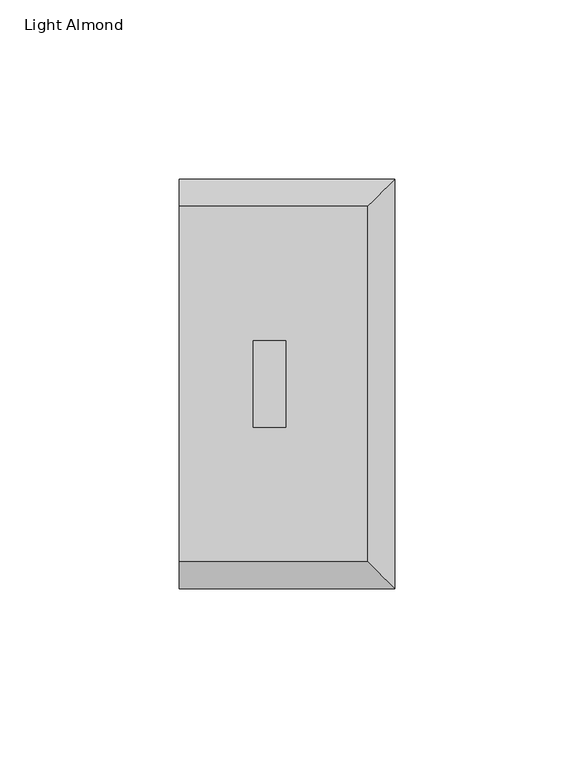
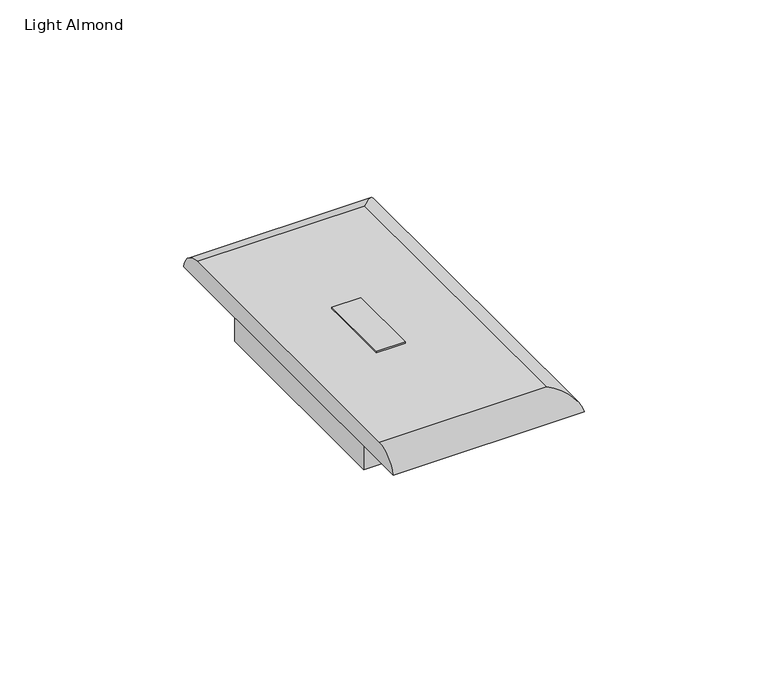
"""IFC4 building model written with IfcOpenShell, lengths in millimetres: proxy geometry, Switch-Wall-Pass_And_Seymour-Toggle : Light Almond."""

from ifc_helpers import new_model, si_unit, frame, origin, origin_with_axes, place, context, project, spatial, polyline, circle_curve, ellipse_curve, outline, extrude, source, transform, mapped, element, save
from ifc_brep_helpers import plane_surface, cylinder_surface, advanced_brep


def light_almond_fe51396b(model_context):
    return source(origin(), model_context, "Body", "SolidModel", [
        extrude(outline(polyline([(4.572, 12.065), (4.572, -12.065), (-4.572, -12.065), (-4.572, 12.065), (4.572, 12.065)])), origin_with_axes(), (0.0, 0.0, 1.0), 6.604),
        advanced_brep(
        [(-25.2222, 49.53, 6.35), (-25.2222, -49.53, 6.35), (27.305, -49.53, 6.35), (27.305, 49.53, 6.35), (4.572, 12.065, 6.35), (4.572, -12.065, 6.35), (-4.572, -12.065, 6.35), (-4.572, 12.065, 6.35), (-25.2222, -57.15, 0.0), (-25.2222, 57.15, 0.0), (34.925, 57.15, 0.0), (34.925, -57.15, 0.0), (4.572, -12.065, 0.254), (4.572, 12.065, 0.254), (-4.572, 12.065, 0.254), (-4.572, -12.065, 0.254)],
        [
            (0, 1),
            (1, 2),
            (2, 3),
            (3, 0),
            (4, 5),
            (5, 6),
            (6, 7),
            (7, 4),
            (8, 9),
            (9, 10),
            (10, 11),
            (11, 8),
            (12, 13),
            (13, 14),
            (14, 15),
            (15, 12),
            (12, 5),
            (4, 13),
            (7, 14),
            (6, 15),
            (11, 2, ellipse_curve(frame((27.305, -49.53, -1.397), z_axis=(-0.7071067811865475, -0.7071067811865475, 0.0), x_axis=(-0.7071067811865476, 0.7071067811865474, 0.0)), 10.9559125, 7.747)),
            (1, 8, circle_curve(frame((-25.2222, -49.53, -1.397), z_axis=(1.0, 0.0, 0.0), x_axis=(0.0, -1.0, 0.0)), 7.747)),
            (3, 10, ellipse_curve(frame((27.305, 49.53, -1.397), z_axis=(-0.7071067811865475, 0.7071067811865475, 0.0), x_axis=(0.7071067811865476, 0.7071067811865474, 0.0)), 10.9559125, 7.747)),
            (9, 0, circle_curve(frame((-25.2222, 49.53, -1.397), z_axis=(1.0, 0.0, 0.0), x_axis=(0.0, 1.0, 0.0)), 7.747)),
        ],
        [
            plane_surface(frame((-34.925, 57.15, 6.35), z_axis=(0.0, 0.0, 1.0), x_axis=(-1.0, 0.0, 0.0))),
            plane_surface(frame((-34.925, 57.15, 0.0), z_axis=(0.0, 0.0, -1.0), x_axis=(1.0, 0.0, 0.0))),
            plane_surface(frame((4.572, -12.065, 0.254), z_axis=(0.0, 0.0, 1.0), x_axis=(-1.0, 0.0, 0.0))),
            plane_surface(frame((4.572, 12.065, 0.254), z_axis=(-1.0, 0.0, 0.0), x_axis=(0.0, 0.0, 1.0))),
            plane_surface(frame((-4.572, 12.065, 0.254), z_axis=(0.0, -1.0, 0.0), x_axis=(0.0, 0.0, 1.0))),
            plane_surface(frame((-4.572, -12.065, 0.254), z_axis=(1.0, 0.0, 0.0), x_axis=(0.0, 0.0, 1.0))),
            plane_surface(frame((4.572, -12.065, 0.254), z_axis=(0.0, 1.0, 0.0), x_axis=(0.0, 0.0, 1.0))),
            cylinder_surface(frame((34.925, -49.53, -1.397), z_axis=(-1.0, 0.0, 0.0), x_axis=(0.0, -1.0, 0.0)), 7.747),
            cylinder_surface(frame((-34.925, 49.53, -1.397), z_axis=(1.0, 0.0, 0.0), x_axis=(0.0, 1.0, 0.0)), 7.747),
            cylinder_surface(frame((27.305, 57.15, -1.397), z_axis=(0.0, -1.0, 0.0), x_axis=(1.0, 0.0, 0.0)), 7.747),
            plane_surface(frame((-25.2222, -60.1472, 6.35), z_axis=(-1.0, 0.0, 0.0), x_axis=(0.0, 0.0, -1.0))),
        ],
        [
            (0, [[1, 2, 3, 4], [5, 6, 7, 8]]),
            (1, [[9, 10, 11, 12]]),
            (2, [[13, 14, 15, 16]]),
            (3, [[-13, 17, -5, 18]]),
            (4, [[-14, -18, -8, 19]]),
            (5, [[-15, -19, -7, 20]]),
            (6, [[-16, -20, -6, -17]]),
            (7, [[21, -2, 22, -12]]),
            (8, [[23, -10, 24, -4]]),
            (9, [[-21, -11, -23, -3]]),
            (10, [[-9, -22, -1, -24]]),
        ],
    ),
        extrude(outline(polyline([(21.844, 35.179), (21.844, -35.179), (-21.844, -35.179), (-21.844, 35.179), (21.844, 35.179)])), frame((0.0, 0.0, -12.7), z_axis=(0.0, 0.0, 1.0), x_axis=(1.0, 0.0, 0.0)), (0.0, 0.0, 1.0), 12.7),
    ])


if __name__ == "__main__":
    model = new_model("IFC4")
    model_context = context("Model", 3, world=origin())
    ifc_project = project(units=[si_unit("LENGTHUNIT", "METRE", prefix="MILLI")], contexts=[model_context])
    site = spatial("IfcSite", under=ifc_project)
    building = spatial("IfcBuilding", under=site)
    placement = place(None, origin())
    light_almond_shape = light_almond_fe51396b(model_context)
    element("IfcBuildingElementProxy", 1, Name="Switch-Wall-Pass_And_Seymour-Toggle : Light Almond", ObjectType="Switch-Wall-Pass_And_Seymour-Toggle : Light Almond", at=placement, inside=building, context=model_context, shape_type="MappedRepresentation", body=[
        mapped(light_almond_shape, transform((0.0, 0.0, 0.0), x_axis=(1.0, 0.0, 0.0), y_axis=(0.0, 1.0, 0.0), z_axis=(0.0, 0.0, 1.0))),
    ])
    save(model, "model.ifc")
